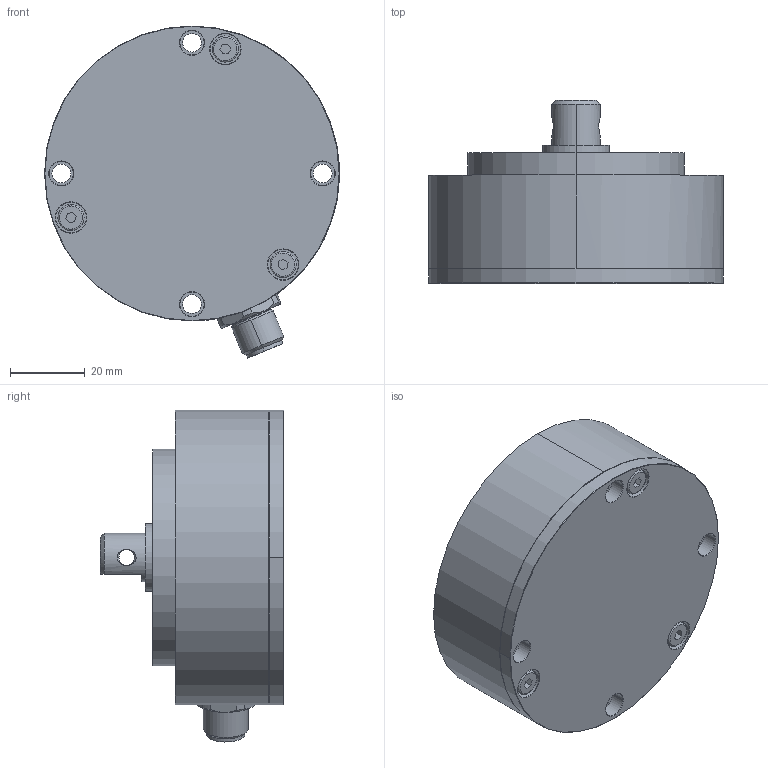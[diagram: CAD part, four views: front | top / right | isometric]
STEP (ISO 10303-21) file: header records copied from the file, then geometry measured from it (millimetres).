
FILE_DESCRIPTION (( 'STEP AP214' ), '1' );
FILE_NAME ('IPX-7911-_ _ _-_ _ _-551.STEP', '2017-09-14T05:15:43', ( 'dummy' ), ( 'Microsoft' ), 'SwSTEP 2.0', 'SolidWorks 2014', '' );
FILE_SCHEMA (( 'AUTOMOTIVE_DESIGN' ));
Length unit declared in the file: millimetre
Products named in the file (1): IPX-7911-_ _ _-_ _ _-551
Bounding box: 79 x 49.05 x 88.92 mm (x, y, z)
Surface area: 25776.6 mm2 (no closed solid volume)
Topology: 0 solids, 11 shells, 179 faces, 448 edges, 287 vertices
Faces by surface type: cylinder 70, plane 52, cone 47, torus 10
Entity records: 7513 total; most frequent: CARTESIAN_POINT 1099, DIRECTION 1014, ORIENTED_EDGE 807, EDGE_CURVE 448, AXIS2_PLACEMENT_3D 410, VERTEX_POINT 287, CIRCLE 230, EDGE_LOOP 221
